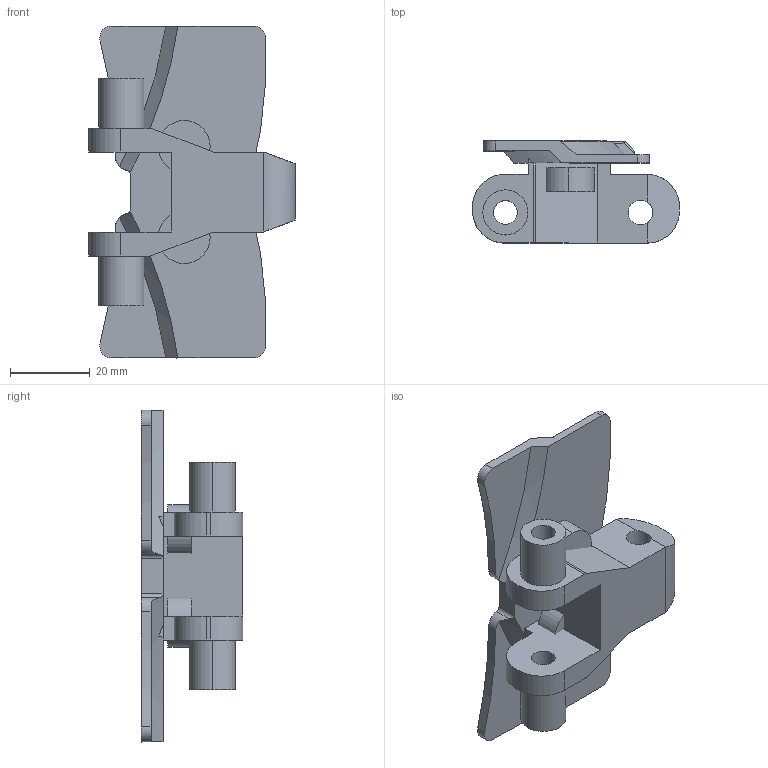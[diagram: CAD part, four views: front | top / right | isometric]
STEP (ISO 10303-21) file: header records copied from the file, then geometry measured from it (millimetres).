
FILE_DESCRIPTION (( 'STEP AP214' ), '1' );
FILE_NAME ('EMPC 5R.step', '2017-04-04T13:34:16', ( '' ), ( '' ), 'SwSTEP 2.0', 'SolidWorks 2015', '' );
FILE_SCHEMA (( 'AUTOMOTIVE_DESIGN' ));
Length unit declared in the file: millimetre
Products named in the file (1): EMPC 5R
Bounding box: 51.7 x 25.5 x 83 mm (x, y, z)
Volume: 29458 mm3; surface area: 14864.4 mm2
Topology: 4 solids, 4 shells, 96 faces, 250 edges, 164 vertices
Faces by surface type: plane 47, cylinder 39, cone 4, torus 4, bspline 2
Entity records: 4177 total; most frequent: CARTESIAN_POINT 991, ORIENTED_EDGE 500, DIRECTION 467, EDGE_CURVE 250, AXIS2_PLACEMENT_3D 171, VERTEX_POINT 164, LINE 125, VECTOR 125
